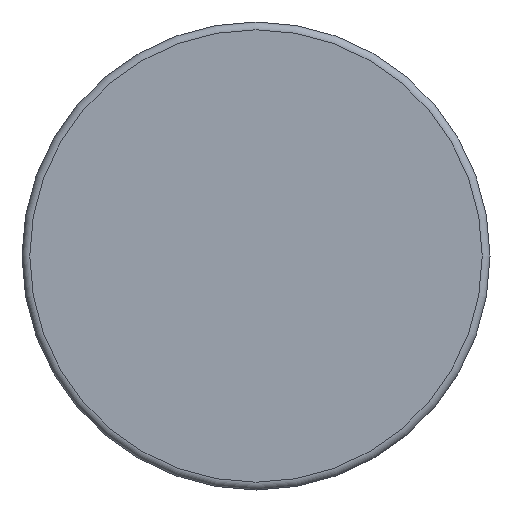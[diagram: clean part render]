
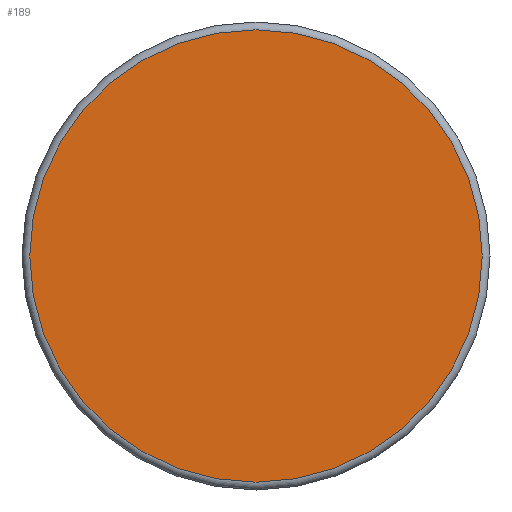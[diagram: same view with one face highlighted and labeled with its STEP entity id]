
A CAD part, front view. The second image highlights one B-rep face of the part: STEP entity #189.
In plain terms, the highlighted planar face has unit normal (0, -1, 0).
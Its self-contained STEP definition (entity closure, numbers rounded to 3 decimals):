
#189 = ADVANCED_FACE( '', ( #374 ), #375, .F. );
#374 = FACE_OUTER_BOUND( '', #574, .T. );
#375 = PLANE( '', #575 );
#574 = EDGE_LOOP( '', ( #851 ) );
#575 = AXIS2_PLACEMENT_3D( '', #852, #853, #854 );
#851 = ORIENTED_EDGE( '', *, *, #1192, .T. );
#852 = CARTESIAN_POINT( '', ( 29., 0., 0. ) );
#853 = DIRECTION( '', ( 0., 1., 0. ) );
#854 = DIRECTION( '', ( 0., 0., 1. ) );
#1192 = EDGE_CURVE( '', #1395, #1395, #1396, .T. );
#1395 = VERTEX_POINT( '', #1790 );
#1396 = CIRCLE( '', #1791, 29. );
#1790 = CARTESIAN_POINT( '', ( 0., 0., -29. ) );
#1791 = AXIS2_PLACEMENT_3D( '', #2071, #2072, #2073 );
#2071 = CARTESIAN_POINT( '', ( 0., 0., 0. ) );
#2072 = DIRECTION( '', ( 0., -1., 0. ) );
#2073 = DIRECTION( '', ( 0., 0., -1. ) );
